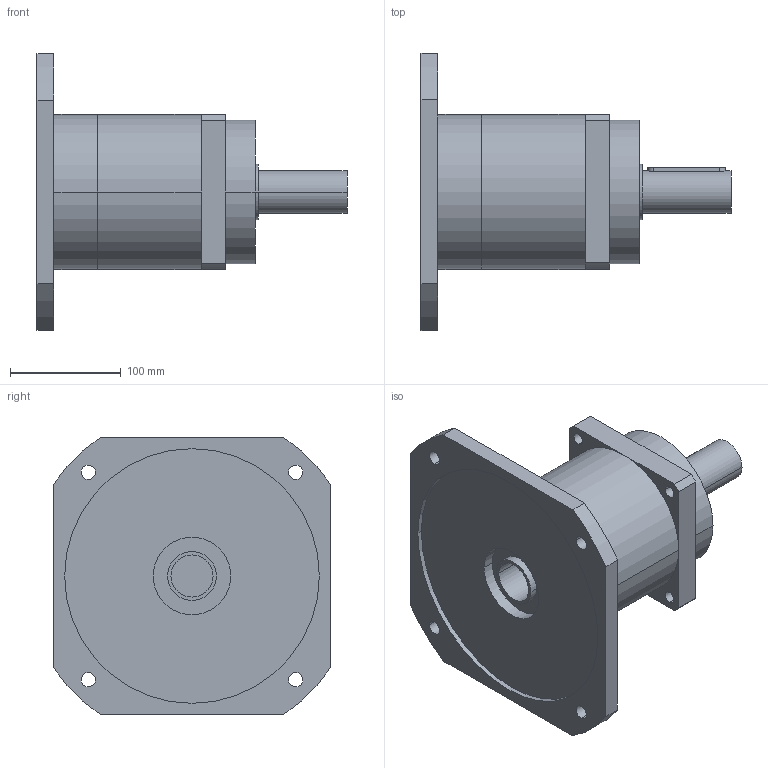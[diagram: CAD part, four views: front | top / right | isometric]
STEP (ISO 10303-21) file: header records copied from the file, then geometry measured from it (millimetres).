
FILE_DESCRIPTION(('CoCreate Modeling STEP Export'),'2;1');
FILE_NAME('GPR150_ig-3-4-5-7_38_B5_38_P07.stp','2014-08-19T16:43:30',(''),(''),'CoCreate Modeling STEP processor for AP214 (Solid Model)','CoCreate Modeling 16.00C 25-Feb-2009 (C) Parametric Technology GmbH','');
FILE_SCHEMA(('AUTOMOTIVE_DESIGN { 1 0 10303 214 1 1 1 1 }'));
Length unit declared in the file: millimetre
Products named in the file (2): GPR150_ig-3-4-5-7_38_B5_38_P07
Assembly tree (1 placements, depth 2):
  GPR150_ig-3-4-5-7_38_B5_38_P07
    GPR150_ig-3-4-5-7_38_B5_38_P07
Bounding box: 280 x 250 x 250 mm (x, y, z)
Volume: 3505780.8 mm3; surface area: 253090.1 mm2
Topology: 1 solids, 1 shells, 78 faces, 214 edges, 146 vertices
Faces by surface type: cylinder 46, plane 26, cone 6
Entity records: 2260 total; most frequent: ORIENTED_EDGE 424, CARTESIAN_POINT 421, DIRECTION 320, EDGE_CURVE 212, VERTEX_POINT 146, AXIS2_PLACEMENT_3D 117, EDGE_LOOP 104, VECTOR 86
